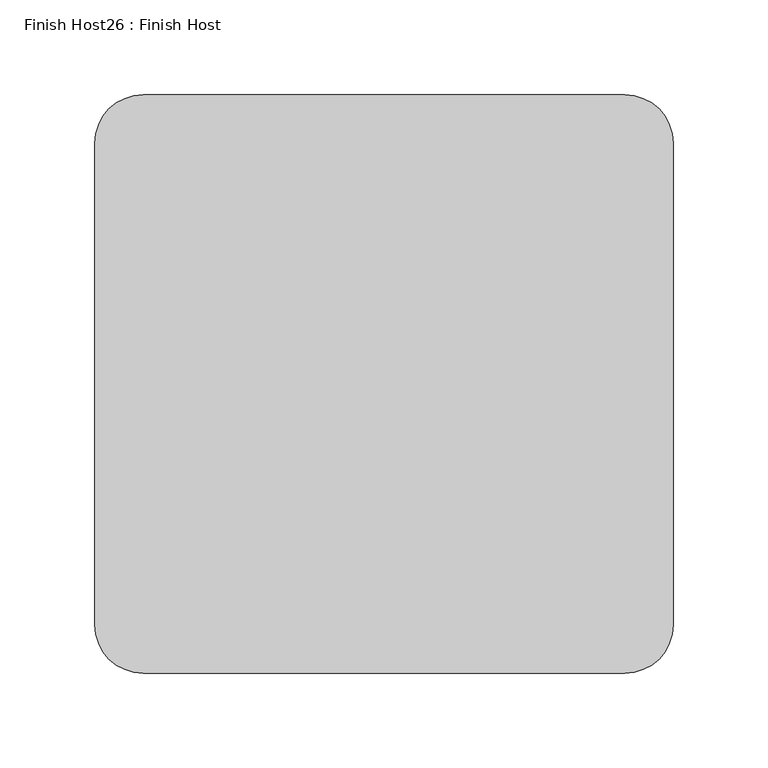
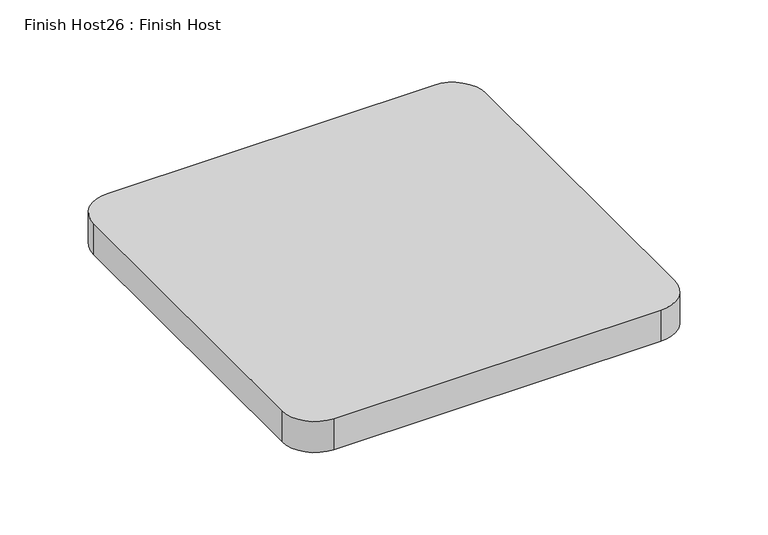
"""IFC4 building model written with IfcOpenShell, lengths in millimetres: proxy geometry, Finish Host26 : Finish Host."""

from ifc_helpers import new_model, si_unit, point, frame_2d, origin, origin_with_axes, place, context, project, spatial, polyline, circle_curve, trimmed, segment, composite_curve, outline, extrude, source, transform, mapped, element, save


def finish_host26_finish_host_fe2e111e(model_context):
    return source(origin(), model_context, "Body", "SweptSolid", [
        extrude(outline(composite_curve([segment(polyline([(4568.3649374, 3242.5667263), (4568.3649374, 3496.5667263)]), True, "CONTINUOUS"), segment(trimmed(circle_curve(frame_2d((4593.7649374, 3496.5667263)), 25.4), [point((4568.3649374, 3496.5667263))], [point((4593.7649374, 3521.9667263))], False, "CARTESIAN"), True, "CONTINUOUS"), segment(polyline([(4593.7649374, 3521.9667263), (4847.7649374, 3521.9667263)]), True, "CONTINUOUS"), segment(trimmed(circle_curve(frame_2d((4847.7649374, 3496.5667263)), 25.4), [point((4847.7649374, 3521.9667263))], [point((4873.1649374, 3496.5667263))], False, "CARTESIAN"), True, "CONTINUOUS"), segment(polyline([(4873.1649374, 3496.5667263), (4873.1649374, 3242.5667263)]), True, "CONTINUOUS"), segment(trimmed(circle_curve(frame_2d((4847.7649374, 3242.5667263)), 25.4), [point((4873.1649374, 3242.5667263))], [point((4847.7649374, 3217.1667263))], False, "CARTESIAN"), True, "CONTINUOUS"), segment(polyline([(4847.7649374, 3217.1667263), (4593.7649374, 3217.1667263)]), True, "CONTINUOUS"), segment(trimmed(circle_curve(frame_2d((4593.7649374, 3242.5667263)), 25.4), [point((4593.7649374, 3217.1667263))], [point((4568.3649374, 3242.5667263))], False, "CARTESIAN"), True, "CONTINUOUS")], self_intersect=False)), origin_with_axes(), (0.0, 0.0, 1.0), 25.4),
    ])


if __name__ == "__main__":
    model = new_model("IFC4")
    model_context = context("Model", 3, world=origin())
    ifc_project = project(units=[si_unit("LENGTHUNIT", "METRE", prefix="MILLI")], contexts=[model_context])
    site = spatial("IfcSite", under=ifc_project)
    building = spatial("IfcBuilding", under=site)
    placement = place(None, origin())
    finish_host26_finish_host_shape = finish_host26_finish_host_fe2e111e(model_context)
    element("IfcBuildingElementProxy", 1, Name="Finish Host26 : Finish Host", ObjectType="Finish Host26 : Finish Host", at=placement, inside=building, context=model_context, shape_type="MappedRepresentation", body=[
        mapped(finish_host26_finish_host_shape, transform((0.0, 0.0, 0.0), x_axis=(1.0, 0.0, 0.0), y_axis=(0.0, 1.0, 0.0), z_axis=(0.0, 0.0, 1.0))),
    ])
    save(model, "model.ifc")
